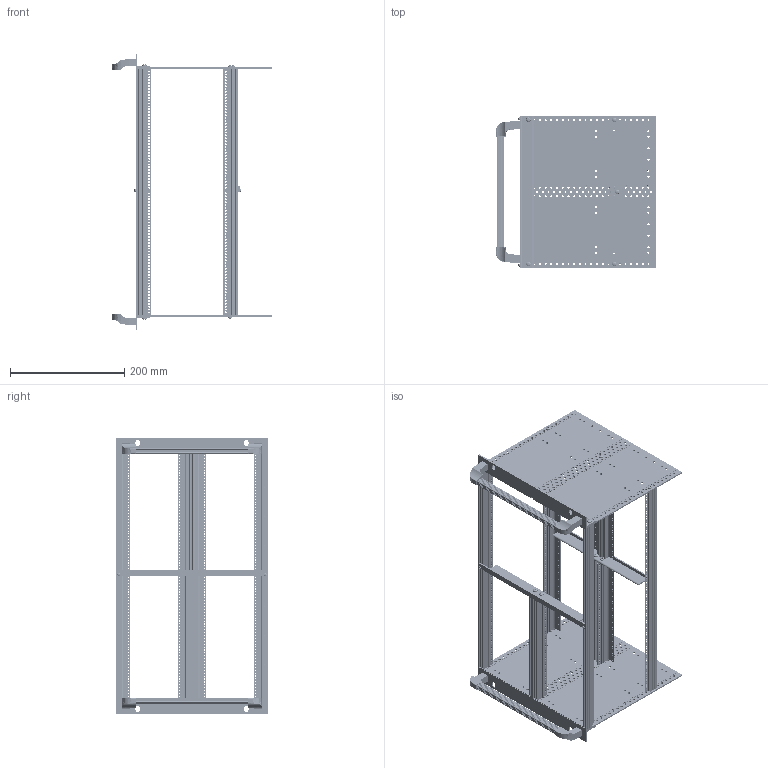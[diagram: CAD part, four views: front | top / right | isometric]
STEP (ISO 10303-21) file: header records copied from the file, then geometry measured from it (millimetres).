
FILE_DESCRIPTION(('OneSpaceDesigner STEP Export'),'2;1');
FILE_NAME('24561514.stp','2011-02-17T 8:56:11',(''),(''),'OneSpace Designer STEP processor for AP214 (Solid Model)','OneSpace Modeling 15.50A 21-Sep-2007 (C) CoCreate Software GmbH','');
FILE_SCHEMA(('AUTOMOTIVE_DESIGN { 1 0 10303 214 1 1 1 1 }'));
Length unit declared in the file: millimetre
Products named in the file (21): 0630096_Linsenschraube_M4x12St.6.1.4.1; 024102201_Modulschiene_85TE_Standard.1; 0240051_Gewindeleiste_85TE_7x2_M2; 026791901_Modulschiene_integriert; 024102203_Modulschiene_43TE_Standard.1; 026791903_Modulschiene_integriert.1; 0240053_Gewindeleiste_43TE_7x2_M2; 0241087_Montagestrebe_Standart; 0241088_Montagestrebe_integr_32pol; 024110803_Tragschiene_41_5TE; 024100206_Frontwinkel_6HE; 061130001_Kopfstück_für_Griffrohr; 061130002_Kopfstück_für_Griffrohr.1; 061133701_Griffrohr_6HE.1; 0630121_Senkschr_M5x12St; 0630092_Linsenschraube_M2_5x6St; 0630119_Senkschr_M4x10St; 0630094_Linsenschraube_M2_5x10St; 0630152_U_scheibe_2.1.1; 024560250_Seitenwand_6HE_T_236.1.2; 024561514_Internet
Assembly tree (55 placements, depth 2):
  024561514_Internet
    024560250_Seitenwand_6HE_T_236.1.2  x2
    0630152_U_scheibe_2.1.1  x4
    0630094_Linsenschraube_M2_5x10St  x2
    0630119_Senkschr_M4x10St
    0630096_Linsenschraube_M4x12St.6.1.4.1  x17
    0630092_Linsenschraube_M2_5x6St  x2
    0630121_Senkschr_M5x12St  x4
    061133701_Griffrohr_6HE.1  x2
    061130002_Kopfstück_für_Griffrohr.1  x2
    061130001_Kopfstück_für_Griffrohr  x2
    024100206_Frontwinkel_6HE  x2
    024110803_Tragschiene_41_5TE
    0241088_Montagestrebe_integr_32pol
    0241087_Montagestrebe_Standart
    0240053_Gewindeleiste_43TE_7x2_M2  x2
    026791903_Modulschiene_integriert.1  x2
    024102203_Modulschiene_43TE_Standard.1  x2
    026791901_Modulschiene_integriert  x2
    0240051_Gewindeleiste_85TE_7x2_M2  x2
    024102201_Modulschiene_85TE_Standard.1  x2
Bounding box: 279.58 x 266 x 482.1 mm (x, y, z)
Volume: 822481 mm3; surface area: 796661.9 mm2
Topology: 55 solids, 55 shells, 8202 faces, 22976 edges, 15279 vertices
Faces by surface type: plane 3432, cylinder 3174, cone 1504, torus 54, bspline 34, extrusion 4
Entity records: 127672 total; most frequent: CARTESIAN_POINT 23666, ORIENTED_EDGE 22878, DIRECTION 19563, EDGE_CURVE 11439, VERTEX_POINT 7605, AXIS2_PLACEMENT_3D 6536, VECTOR 6491, LINE 6489
